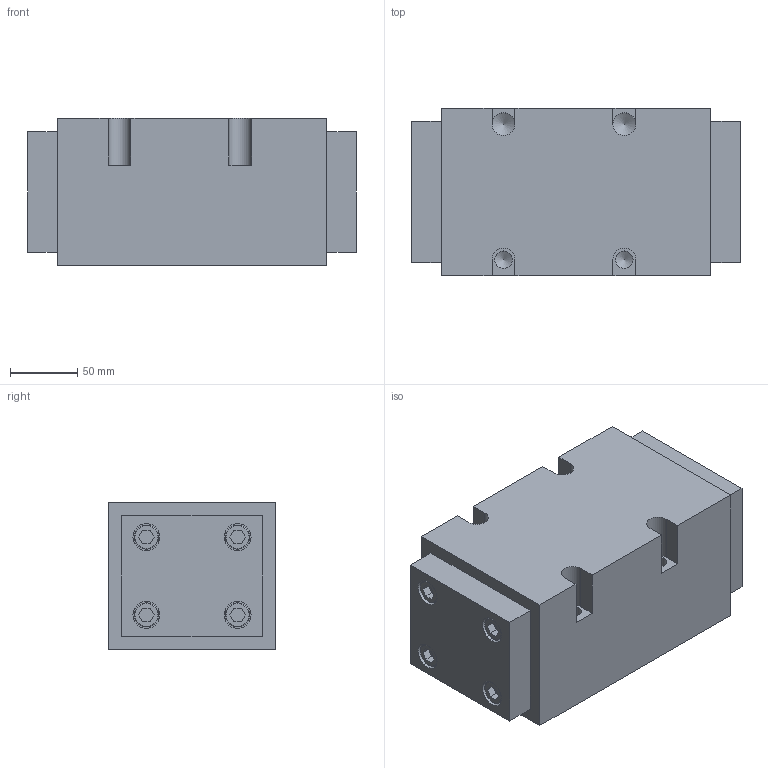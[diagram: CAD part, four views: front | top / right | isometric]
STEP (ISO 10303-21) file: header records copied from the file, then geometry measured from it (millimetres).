
FILE_DESCRIPTION(/* description */ (''),/* implementation_level */ '2;1');
FILE_NAME(/* name */ '15-4.prt.stp',/* time_stamp */ '2023-05-03T14:32:42+08:00',/* author */ (''),/* organization */ (''),/* preprocessor_version */ 'ST-DEVELOPER v16.7',/* originating_system */ 'SIEMENS PLM Software NX 12.0',/* authorisation */ '');
FILE_SCHEMA (('AUTOMOTIVE_DESIGN { 1 0 10303 214 3 1 1 1 }'));
Length unit declared in the file: millimetre
Products named in the file (1): 15-4
Bounding box: 245 x 125 x 110 mm (x, y, z)
Volume: 3046274.4 mm3; surface area: 240069.1 mm2
Topology: 11 solids, 11 shells, 252 faces, 629 edges, 416 vertices
Faces by surface type: plane 153, cylinder 68, cone 23, torus 8
Full cylindrical faces by diameter (mm): 10.2 x8, 12 x8, 13 x2, 14 x8, 17 x2, 18 x8, 20 x8, 24 x2, 28 x1, 32 x2, 37 x1
Entity records: 6770 total; most frequent: DIRECTION 1162, CARTESIAN_POINT 1116, ORIENTED_EDGE 972, EDGE_CURVE 486, AXIS2_PLACEMENT_3D 423, EDGE_LOOP 390, VERTEX_POINT 377, LINE 316
